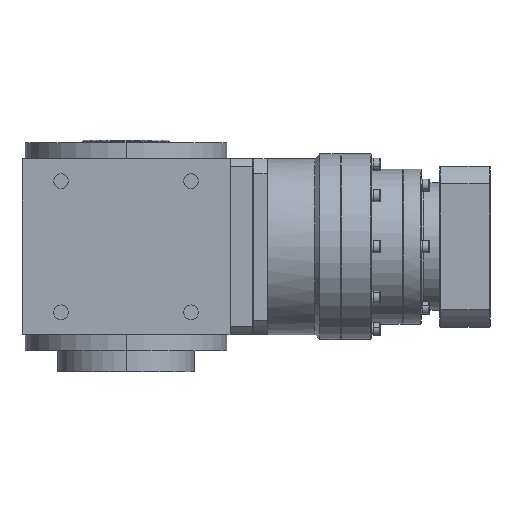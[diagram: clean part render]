
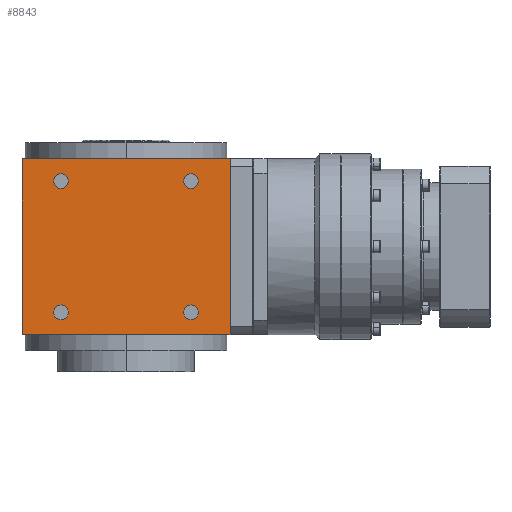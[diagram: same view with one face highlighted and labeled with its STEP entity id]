
A CAD part, left-side view. The second image highlights one B-rep face of the part: STEP entity #8843.
In plain terms, the highlighted planar face has unit normal (-1, 0, 0).
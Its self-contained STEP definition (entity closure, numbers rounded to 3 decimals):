
#670 = EDGE_CURVE ( 'NONE', #14808, #15149, #35724, .T. ) ;
#724 = ORIENTED_EDGE ( 'NONE', *, *, #37408, .F. ) ;
#1237 = PLANE ( 'NONE',  #29024 ) ;
#2281 = AXIS2_PLACEMENT_3D ( 'NONE', #10712, #38937, #42382 ) ;
#2596 = ORIENTED_EDGE ( 'NONE', *, *, #31707, .T. ) ;
#2720 = CARTESIAN_POINT ( 'NONE',  ( -84., 52.5, -53. ) ) ;
#2857 = DIRECTION ( 'NONE',  ( 0., -1., 0. ) ) ;
#2911 = CARTESIAN_POINT ( 'NONE',  ( -84., 58.5, -53. ) ) ;
#3047 = EDGE_CURVE ( 'NONE', #12643, #44890, #19190, .T. ) ;
#3259 = CARTESIAN_POINT ( 'NONE',  ( -84., 46.5, 53. ) ) ;
#3698 = DIRECTION ( 'NONE',  ( 0., -1., 0. ) ) ;
#3895 = CIRCLE ( 'NONE', #38363, 6. ) ;
#4238 = ORIENTED_EDGE ( 'NONE', *, *, #670, .F. ) ;
#4832 = CARTESIAN_POINT ( 'NONE',  ( -84., 58.5, 53. ) ) ;
#5060 = EDGE_CURVE ( 'NONE', #44890, #12643, #28762, .T. ) ;
#5719 = VERTEX_POINT ( 'NONE', #35882 ) ;
#5840 = EDGE_LOOP ( 'NONE', ( #33705, #10650 ) ) ;
#6765 = LINE ( 'NONE', #42137, #28803 ) ;
#6778 = EDGE_CURVE ( 'NONE', #30446, #5719, #21201, .T. ) ;
#7105 = ORIENTED_EDGE ( 'NONE', *, *, #5060, .T. ) ;
#8707 = CARTESIAN_POINT ( 'NONE',  ( -84., 52.5, 53. ) ) ;
#8829 = CIRCLE ( 'NONE', #14682, 6. ) ;
#8843 = ADVANCED_FACE ( 'NONE', ( #43928, #33140, #29944, #43245, #29031 ), #1237, .T. ) ;
#8883 = DIRECTION ( 'NONE',  ( 1., 0., 0. ) ) ;
#9081 = CARTESIAN_POINT ( 'NONE',  ( -84., 52.5, -53. ) ) ;
#9728 = CARTESIAN_POINT ( 'NONE',  ( -84., 84., -71. ) ) ;
#10212 = DIRECTION ( 'NONE',  ( 1., 0., 0. ) ) ;
#10650 = ORIENTED_EDGE ( 'NONE', *, *, #42009, .T. ) ;
#10712 = CARTESIAN_POINT ( 'NONE',  ( -84., -52.5, -53. ) ) ;
#11350 = CIRCLE ( 'NONE', #25331, 6. ) ;
#11577 = CARTESIAN_POINT ( 'NONE',  ( -84., 84., -71. ) ) ;
#11726 = CARTESIAN_POINT ( 'NONE',  ( -84., -46.5, 53. ) ) ;
#11921 = ORIENTED_EDGE ( 'NONE', *, *, #6778, .T. ) ;
#12197 = VECTOR ( 'NONE', #30808, 1000. ) ;
#12237 = CARTESIAN_POINT ( 'NONE',  ( -84., -58.5, -53. ) ) ;
#12470 = DIRECTION ( 'NONE',  ( -1., 0., 0. ) ) ;
#12643 = VERTEX_POINT ( 'NONE', #44895 ) ;
#13299 = DIRECTION ( 'NONE',  ( 0., -1., 0. ) ) ;
#13778 = VECTOR ( 'NONE', #32255, 1000. ) ;
#13810 = CARTESIAN_POINT ( 'NONE',  ( -84., 84., 71. ) ) ;
#14682 = AXIS2_PLACEMENT_3D ( 'NONE', #24034, #10212, #2857 ) ;
#14757 = CIRCLE ( 'NONE', #2281, 6. ) ;
#14808 = VERTEX_POINT ( 'NONE', #13810 ) ;
#15149 = VERTEX_POINT ( 'NONE', #27317 ) ;
#15925 = DIRECTION ( 'NONE',  ( 0., 0., 1. ) ) ;
#16255 = DIRECTION ( 'NONE',  ( 1., 0., 0. ) ) ;
#16457 = EDGE_LOOP ( 'NONE', ( #21706, #2596 ) ) ;
#17636 = DIRECTION ( 'NONE',  ( 1., 0., 0. ) ) ;
#17987 = ORIENTED_EDGE ( 'NONE', *, *, #41342, .T. ) ;
#18107 = CARTESIAN_POINT ( 'NONE',  ( -84., 84., -71. ) ) ;
#18256 = CARTESIAN_POINT ( 'NONE',  ( -84., 0., 71. ) ) ;
#18583 = EDGE_CURVE ( 'NONE', #34538, #26842, #33161, .T. ) ;
#19086 = EDGE_LOOP ( 'NONE', ( #17987, #43865 ) ) ;
#19190 = CIRCLE ( 'NONE', #19919, 6. ) ;
#19919 = AXIS2_PLACEMENT_3D ( 'NONE', #2720, #44748, #13299 ) ;
#20123 = VECTOR ( 'NONE', #3698, 1000. ) ;
#20483 = LINE ( 'NONE', #44117, #12197 ) ;
#20615 = DIRECTION ( 'NONE',  ( 1., 0., 0. ) ) ;
#20630 = CIRCLE ( 'NONE', #23592, 6. ) ;
#21201 = LINE ( 'NONE', #9728, #20123 ) ;
#21706 = ORIENTED_EDGE ( 'NONE', *, *, #40704, .T. ) ;
#22578 = EDGE_LOOP ( 'NONE', ( #43733, #4238, #724, #11921 ) ) ;
#23592 = AXIS2_PLACEMENT_3D ( 'NONE', #8707, #16255, #43829 ) ;
#24034 = CARTESIAN_POINT ( 'NONE',  ( -84., -52.5, 53. ) ) ;
#24323 = DIRECTION ( 'NONE',  ( 0., -1., 0. ) ) ;
#25331 = AXIS2_PLACEMENT_3D ( 'NONE', #41930, #20615, #31849 ) ;
#26842 = VERTEX_POINT ( 'NONE', #4832 ) ;
#27195 = CARTESIAN_POINT ( 'NONE',  ( -84., -58.5, 53. ) ) ;
#27317 = CARTESIAN_POINT ( 'NONE',  ( -84., -84., 71. ) ) ;
#27979 = EDGE_LOOP ( 'NONE', ( #31957, #7105 ) ) ;
#28762 = CIRCLE ( 'NONE', #36090, 6. ) ;
#28803 = VECTOR ( 'NONE', #44903, 1000. ) ;
#29024 = AXIS2_PLACEMENT_3D ( 'NONE', #11577, #12470, #15925 ) ;
#29031 = FACE_OUTER_BOUND ( 'NONE', #22578, .T. ) ;
#29944 = FACE_BOUND ( 'NONE', #16457, .T. ) ;
#30446 = VERTEX_POINT ( 'NONE', #18107 ) ;
#30808 = DIRECTION ( 'NONE',  ( 0., 0., 1. ) ) ;
#31707 = EDGE_CURVE ( 'NONE', #44223, #44466, #3895, .T. ) ;
#31849 = DIRECTION ( 'NONE',  ( 0., -1., 0. ) ) ;
#31957 = ORIENTED_EDGE ( 'NONE', *, *, #3047, .T. ) ;
#32255 = DIRECTION ( 'NONE',  ( 0., -1., 0. ) ) ;
#33140 = FACE_BOUND ( 'NONE', #27979, .T. ) ;
#33161 = CIRCLE ( 'NONE', #39009, 6. ) ;
#33460 = DIRECTION ( 'NONE',  ( 0., -1., 0. ) ) ;
#33681 = CARTESIAN_POINT ( 'NONE',  ( -84., 52.5, 53. ) ) ;
#33705 = ORIENTED_EDGE ( 'NONE', *, *, #18583, .T. ) ;
#34538 = VERTEX_POINT ( 'NONE', #3259 ) ;
#35724 = LINE ( 'NONE', #18256, #13778 ) ;
#35882 = CARTESIAN_POINT ( 'NONE',  ( -84., -84., -71. ) ) ;
#36090 = AXIS2_PLACEMENT_3D ( 'NONE', #9081, #44448, #36888 ) ;
#36489 = VERTEX_POINT ( 'NONE', #11726 ) ;
#36888 = DIRECTION ( 'NONE',  ( 0., -1., 0. ) ) ;
#37408 = EDGE_CURVE ( 'NONE', #30446, #14808, #20483, .T. ) ;
#38207 = EDGE_CURVE ( 'NONE', #5719, #15149, #6765, .T. ) ;
#38363 = AXIS2_PLACEMENT_3D ( 'NONE', #42209, #17636, #24323 ) ;
#38403 = CARTESIAN_POINT ( 'NONE',  ( -84., -46.5, -53. ) ) ;
#38937 = DIRECTION ( 'NONE',  ( 1., 0., 0. ) ) ;
#39009 = AXIS2_PLACEMENT_3D ( 'NONE', #33681, #8883, #33460 ) ;
#40704 = EDGE_CURVE ( 'NONE', #44466, #44223, #14757, .T. ) ;
#41342 = EDGE_CURVE ( 'NONE', #44154, #36489, #8829, .T. ) ;
#41930 = CARTESIAN_POINT ( 'NONE',  ( -84., -52.5, 53. ) ) ;
#42009 = EDGE_CURVE ( 'NONE', #26842, #34538, #20630, .T. ) ;
#42137 = CARTESIAN_POINT ( 'NONE',  ( -84., -84., -71. ) ) ;
#42209 = CARTESIAN_POINT ( 'NONE',  ( -84., -52.5, -53. ) ) ;
#42382 = DIRECTION ( 'NONE',  ( 0., -1., 0. ) ) ;
#43245 = FACE_BOUND ( 'NONE', #5840, .T. ) ;
#43733 = ORIENTED_EDGE ( 'NONE', *, *, #38207, .T. ) ;
#43829 = DIRECTION ( 'NONE',  ( 0., -1., 0. ) ) ;
#43865 = ORIENTED_EDGE ( 'NONE', *, *, #45027, .T. ) ;
#43928 = FACE_BOUND ( 'NONE', #19086, .T. ) ;
#44117 = CARTESIAN_POINT ( 'NONE',  ( -84., 84., -71. ) ) ;
#44154 = VERTEX_POINT ( 'NONE', #27195 ) ;
#44223 = VERTEX_POINT ( 'NONE', #38403 ) ;
#44448 = DIRECTION ( 'NONE',  ( 1., 0., 0. ) ) ;
#44466 = VERTEX_POINT ( 'NONE', #12237 ) ;
#44748 = DIRECTION ( 'NONE',  ( 1., 0., 0. ) ) ;
#44890 = VERTEX_POINT ( 'NONE', #2911 ) ;
#44895 = CARTESIAN_POINT ( 'NONE',  ( -84., 46.5, -53. ) ) ;
#44903 = DIRECTION ( 'NONE',  ( 0., 0., 1. ) ) ;
#45027 = EDGE_CURVE ( 'NONE', #36489, #44154, #11350, .T. ) ;
